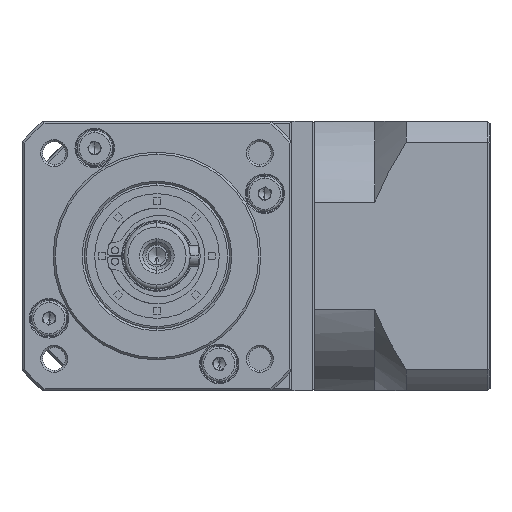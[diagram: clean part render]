
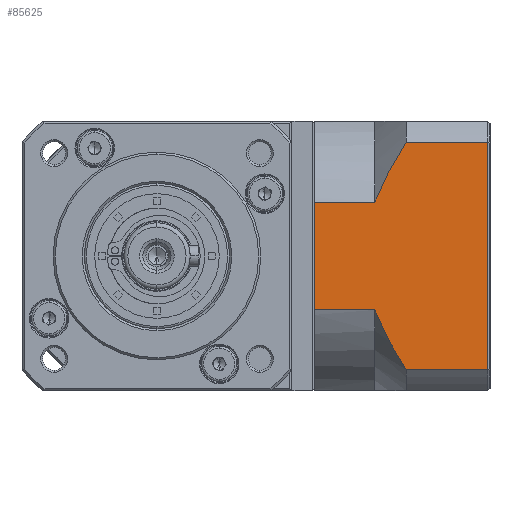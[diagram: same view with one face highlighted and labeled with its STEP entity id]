
A CAD part, left-side view. The second image highlights one B-rep face of the part: STEP entity #85625.
In plain terms, the highlighted planar face has unit normal (-1, 0, 0).
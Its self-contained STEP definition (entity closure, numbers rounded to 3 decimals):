
#2598 = LINE ( 'NONE', #126645, #165486 ) ;
#4721 = DIRECTION ( 'NONE',  ( 0., 1., 0. ) ) ;
#4890 = VERTEX_POINT ( 'NONE', #73386 ) ;
#8345 = CARTESIAN_POINT ( 'NONE',  ( -9.591, -72.025, -113.672 ) ) ;
#11486 = CARTESIAN_POINT ( 'NONE',  ( -9.591, -56.583, -142.19 ) ) ;
#11972 = CARTESIAN_POINT ( 'NONE',  ( -9.591, -71.083, -116.21 ) ) ;
#15633 = CARTESIAN_POINT ( 'NONE',  ( -9.591, -71.083, -142.19 ) ) ;
#17533 = ORIENTED_EDGE ( 'NONE', *, *, #122674, .F. ) ;
#23338 = DIRECTION ( 'NONE',  ( 0., 0., 1. ) ) ;
#26717 = CARTESIAN_POINT ( 'NONE',  ( -9.591, -71.083, -116.21 ) ) ;
#27634 = VERTEX_POINT ( 'NONE', #147455 ) ;
#28559 = CARTESIAN_POINT ( 'NONE',  ( -9.591, -71.574, -143.471 ) ) ;
#30616 = VECTOR ( 'NONE', #89650, 1000. ) ;
#34146 = EDGE_CURVE ( 'NONE', #27634, #100904, #128756, .T. ) ;
#35754 = VECTOR ( 'NONE', #39654, 1000. ) ;
#39046 = VERTEX_POINT ( 'NONE', #70362 ) ;
#39654 = DIRECTION ( 'NONE',  ( 0., -1., 0. ) ) ;
#41467 = CARTESIAN_POINT ( 'NONE',  ( -9.591, -72.373, -145.357 ) ) ;
#42013 = VERTEX_POINT ( 'NONE', #51826 ) ;
#45145 = EDGE_LOOP ( 'NONE', ( #17533, #119062, #72628, #63905, #100197, #145517, #159774, #56554 ) ) ;
#46476 = CARTESIAN_POINT ( 'NONE',  ( -9.591, -78.583, -101.814 ) ) ;
#51826 = CARTESIAN_POINT ( 'NONE',  ( -9.591, -56.583, -116.21 ) ) ;
#54302 = CARTESIAN_POINT ( 'NONE',  ( -9.591, -73.829, -148.423 ) ) ;
#55478 = CARTESIAN_POINT ( 'NONE',  ( -9.591, -98.283, -156.586 ) ) ;
#56554 = ORIENTED_EDGE ( 'NONE', *, *, #156980, .T. ) ;
#61323 = VECTOR ( 'NONE', #91604, 1000. ) ;
#63114 = DIRECTION ( 'NONE',  ( 1., 0., 0. ) ) ;
#63905 = ORIENTED_EDGE ( 'NONE', *, *, #34146, .T. ) ;
#65782 = LINE ( 'NONE', #26717, #35754 ) ;
#65899 = AXIS2_PLACEMENT_3D ( 'NONE', #140256, #63114, #153218 ) ;
#67219 = CARTESIAN_POINT ( 'NONE',  ( -9.591, -77.121, -154.318 ) ) ;
#70362 = CARTESIAN_POINT ( 'NONE',  ( -9.591, -98.283, -101.814 ) ) ;
#72300 = CARTESIAN_POINT ( 'NONE',  ( -9.591, -75.75, -106.438 ) ) ;
#72628 = ORIENTED_EDGE ( 'NONE', *, *, #94052, .F. ) ;
#73386 = CARTESIAN_POINT ( 'NONE',  ( -9.591, -78.583, -156.586 ) ) ;
#75545 = PLANE ( 'NONE',  #65899 ) ;
#78687 = CARTESIAN_POINT ( 'NONE',  ( -9.591, -71.083, -101.814 ) ) ;
#79284 = B_SPLINE_CURVE_WITH_KNOTS ( 'NONE', 3,
 ( #15633, #92498, #28559, #118468, #41467, #131361, #54302, #144320, #67219, #157302 ),
 .UNSPECIFIED., .F., .F.,
 ( 4, 2, 2, 2, 4 ),
 ( 0.101, 0.103, 0.105, 0.109, 0.117 ),
 .UNSPECIFIED. ) ;
#83474 = EDGE_CURVE ( 'NONE', #109608, #39046, #2598, .T. ) ;
#85165 = CARTESIAN_POINT ( 'NONE',  ( -9.591, -73.17, -111.22 ) ) ;
#85625 = ADVANCED_FACE ( 'NONE', ( #117729 ), #75545, .F. ) ;
#89650 = DIRECTION ( 'NONE',  ( 0., 0., -1. ) ) ;
#91271 = DIRECTION ( 'NONE',  ( 0., 1., 0. ) ) ;
#91585 = EDGE_CURVE ( 'NONE', #141438, #96317, #123673, .T. ) ;
#91604 = DIRECTION ( 'NONE',  ( 0., -1., 0. ) ) ;
#92498 = CARTESIAN_POINT ( 'NONE',  ( -9.591, -71.321, -142.833 ) ) ;
#94052 = EDGE_CURVE ( 'NONE', #27634, #39046, #129770, .T. ) ;
#94433 = CARTESIAN_POINT ( 'NONE',  ( -9.591, -71.083, -142.19 ) ) ;
#96317 = VERTEX_POINT ( 'NONE', #11486 ) ;
#98119 = CARTESIAN_POINT ( 'NONE',  ( -9.591, -71.083, -116.21 ) ) ;
#100197 = ORIENTED_EDGE ( 'NONE', *, *, #161987, .F. ) ;
#100904 = VERTEX_POINT ( 'NONE', #11972 ) ;
#109608 = VERTEX_POINT ( 'NONE', #55478 ) ;
#117729 = FACE_OUTER_BOUND ( 'NONE', #45145, .T. ) ;
#118468 = CARTESIAN_POINT ( 'NONE',  ( -9.591, -72.099, -144.733 ) ) ;
#119062 = ORIENTED_EDGE ( 'NONE', *, *, #83474, .T. ) ;
#120551 = EDGE_CURVE ( 'NONE', #42013, #96317, #129176, .T. ) ;
#122674 = EDGE_CURVE ( 'NONE', #109608, #4890, #124081, .T. ) ;
#123465 = CARTESIAN_POINT ( 'NONE',  ( -9.591, -77.85, -102.952 ) ) ;
#123673 = LINE ( 'NONE', #94433, #157947 ) ;
#124081 = LINE ( 'NONE', #154985, #158342 ) ;
#126645 = CARTESIAN_POINT ( 'NONE',  ( -9.591, -98.283, -161.7 ) ) ;
#128756 = B_SPLINE_CURVE_WITH_KNOTS ( 'NONE', 3,
 ( #46476, #123465, #149392, #72300, #162332, #85165, #8345, #98119 ),
 .UNSPECIFIED., .F., .F.,
 ( 4, 2, 2, 4 ),
 ( 0.058, 0.062, 0.066, 0.074 ),
 .UNSPECIFIED. ) ;
#129176 = LINE ( 'NONE', #166829, #30616 ) ;
#129770 = LINE ( 'NONE', #78687, #61323 ) ;
#131361 = CARTESIAN_POINT ( 'NONE',  ( -9.591, -73.224, -147.211 ) ) ;
#140256 = CARTESIAN_POINT ( 'NONE',  ( -9.591, -98.783, -161.7 ) ) ;
#141438 = VERTEX_POINT ( 'NONE', #159668 ) ;
#144320 = CARTESIAN_POINT ( 'NONE',  ( -9.591, -75.734, -152.004 ) ) ;
#145517 = ORIENTED_EDGE ( 'NONE', *, *, #120551, .T. ) ;
#147455 = CARTESIAN_POINT ( 'NONE',  ( -9.591, -78.583, -101.814 ) ) ;
#149392 = CARTESIAN_POINT ( 'NONE',  ( -9.591, -77.134, -104.103 ) ) ;
#153218 = DIRECTION ( 'NONE',  ( 0., 1., 0. ) ) ;
#154985 = CARTESIAN_POINT ( 'NONE',  ( -9.591, -71.083, -156.586 ) ) ;
#156980 = EDGE_CURVE ( 'NONE', #141438, #4890, #79284, .T. ) ;
#157302 = CARTESIAN_POINT ( 'NONE',  ( -9.591, -78.583, -156.586 ) ) ;
#157947 = VECTOR ( 'NONE', #4721, 1000. ) ;
#158342 = VECTOR ( 'NONE', #91271, 1000. ) ;
#159668 = CARTESIAN_POINT ( 'NONE',  ( -9.591, -71.083, -142.19 ) ) ;
#159774 = ORIENTED_EDGE ( 'NONE', *, *, #91585, .F. ) ;
#161987 = EDGE_CURVE ( 'NONE', #42013, #100904, #65782, .T. ) ;
#162332 = CARTESIAN_POINT ( 'NONE',  ( -9.591, -75.08, -107.624 ) ) ;
#165486 = VECTOR ( 'NONE', #23338, 1000. ) ;
#166829 = CARTESIAN_POINT ( 'NONE',  ( -9.591, -56.583, -161.7 ) ) ;
